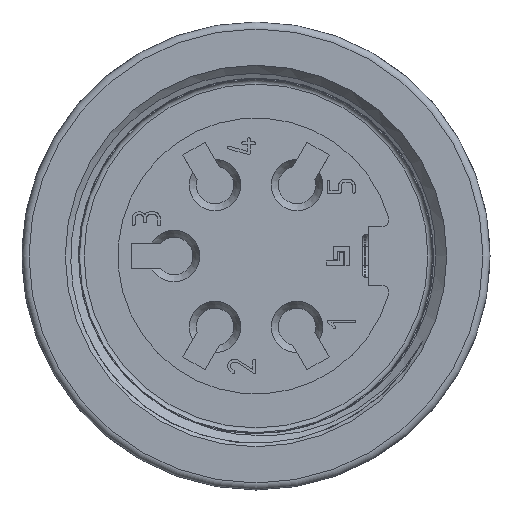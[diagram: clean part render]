
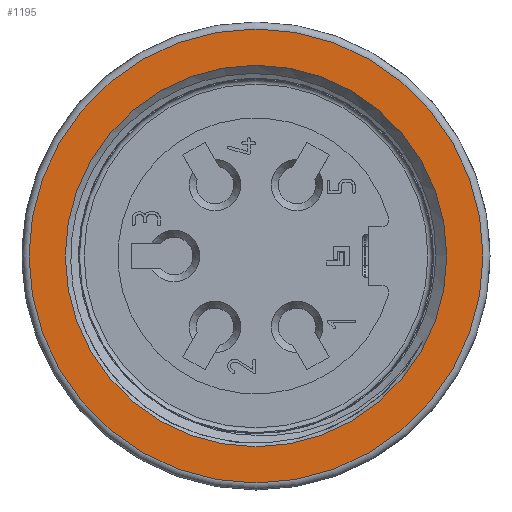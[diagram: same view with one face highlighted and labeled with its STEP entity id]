
A CAD part, left-side view. The second image highlights one B-rep face of the part: STEP entity #1195.
In plain terms, the highlighted planar face has unit normal (-1, 0, 0).
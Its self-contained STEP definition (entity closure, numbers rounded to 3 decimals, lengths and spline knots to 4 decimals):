
#1195=ADVANCED_FACE('',(#1893,#1894),#1668,.T.);
#1668=PLANE('',#9022);
#1893=FACE_BOUND('',#1977,.T.);
#1894=FACE_BOUND('',#1978,.T.);
#1977=EDGE_LOOP('',(#3020));
#1978=EDGE_LOOP('',(#3021));
#2496=CIRCLE('',#9020,9.7);
#2497=CIRCLE('',#9021,8.15);
#3020=ORIENTED_EDGE('',*,*,#6444,.T.);
#3021=ORIENTED_EDGE('',*,*,#6445,.T.);
#5542=VERTEX_POINT('',#13143);
#5543=VERTEX_POINT('',#13145);
#6444=EDGE_CURVE('',#5542,#5542,#2496,.T.);
#6445=EDGE_CURVE('',#5543,#5543,#2497,.T.);
#9020=AXIS2_PLACEMENT_3D('',#13142,#9854,#9855);
#9021=AXIS2_PLACEMENT_3D('',#13144,#9856,#9857);
#9022=AXIS2_PLACEMENT_3D('',#13146,#9858,#9859);
#9854=DIRECTION('',(-1.,0.,0.));
#9855=DIRECTION('',(0.,-1.,0.));
#9856=DIRECTION('',(1.,0.,0.));
#9857=DIRECTION('',(0.,-1.,0.));
#9858=DIRECTION('',(-1.,0.,0.));
#9859=DIRECTION('',(0.,-1.,0.));
#13142=CARTESIAN_POINT('',(0.3,0.,0.));
#13143=CARTESIAN_POINT('',(0.3,-9.7,0.));
#13144=CARTESIAN_POINT('',(0.3,0.,0.));
#13145=CARTESIAN_POINT('',(0.3,-8.15,0.));
#13146=CARTESIAN_POINT('',(0.3,0.,0.));
